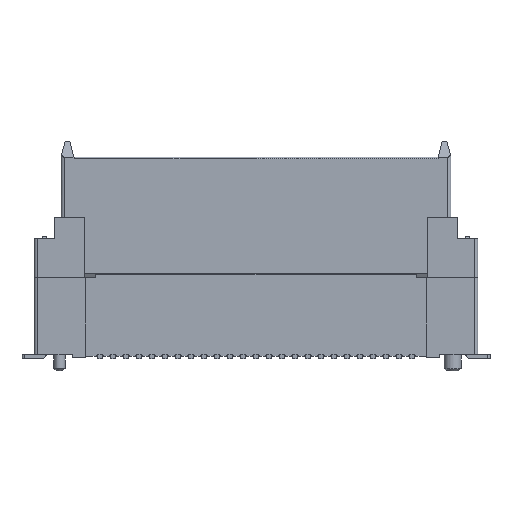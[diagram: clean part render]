
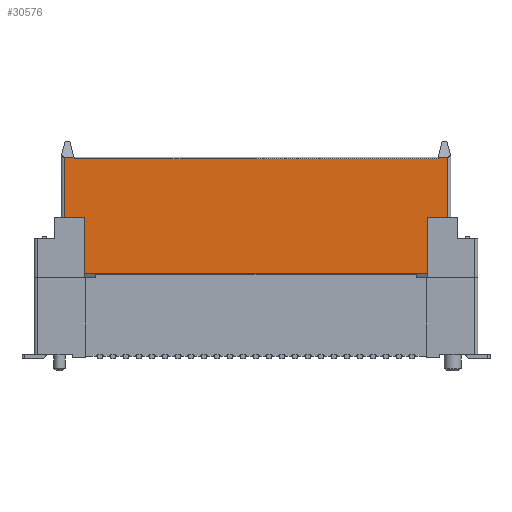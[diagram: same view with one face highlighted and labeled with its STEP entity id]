
A CAD part, front view. The second image highlights one B-rep face of the part: STEP entity #30576.
In plain terms, the highlighted planar face has unit normal (0, -1, 0).
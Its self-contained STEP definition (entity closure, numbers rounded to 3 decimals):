
#27844=CARTESIAN_POINT('Vertex',(-10.55,-2.175,8.65)) ;
#27874=CARTESIAN_POINT('Vertex',(-10.55,-2.175,5.2)) ;
#27877=CARTESIAN_POINT('Line Origine',(-10.55,-2.175,6.925)) ;
#27897=CARTESIAN_POINT('Vertex',(10.55,-2.175,8.65)) ;
#27900=CARTESIAN_POINT('Line Origine',(10.55,-2.175,6.925)) ;
#27904=CARTESIAN_POINT('Vertex',(10.55,-2.175,5.2)) ;
#29609=CARTESIAN_POINT('Vertex',(11.2,-2.175,12.25)) ;
#29625=CARTESIAN_POINT('Vertex',(-11.2,-2.175,12.25)) ;
#29628=CARTESIAN_POINT('Line Origine',(-1.032,-2.175,12.25)) ;
#29665=CARTESIAN_POINT('Vertex',(11.8,-2.175,8.65)) ;
#29668=CARTESIAN_POINT('Line Origine',(11.5,-2.175,8.65)) ;
#29672=CARTESIAN_POINT('Vertex',(11.2,-2.175,8.65)) ;
#29675=CARTESIAN_POINT('Line Origine',(10.875,-2.175,8.65)) ;
#29739=CARTESIAN_POINT('Line Origine',(-10.875,-2.175,8.65)) ;
#29743=CARTESIAN_POINT('Vertex',(-11.2,-2.175,8.65)) ;
#29746=CARTESIAN_POINT('Line Origine',(-11.5,-2.175,8.65)) ;
#29750=CARTESIAN_POINT('Vertex',(-11.8,-2.175,8.65)) ;
#30099=CARTESIAN_POINT('Line Origine',(11.2,-2.175,12.3)) ;
#30103=CARTESIAN_POINT('Vertex',(11.2,-2.175,12.35)) ;
#30121=CARTESIAN_POINT('Vertex',(-11.2,-2.175,12.35)) ;
#30124=CARTESIAN_POINT('Line Origine',(-11.2,-2.175,12.3)) ;
#30181=CARTESIAN_POINT('Line Origine',(-11.8,-2.175,9.275)) ;
#30185=CARTESIAN_POINT('Vertex',(-11.8,-2.175,12.35)) ;
#30225=CARTESIAN_POINT('Line Origine',(0.,-2.175,12.35)) ;
#30513=CARTESIAN_POINT('Line Origine',(11.8,-2.175,9.275)) ;
#30517=CARTESIAN_POINT('Vertex',(11.8,-2.175,12.35)) ;
#30545=CARTESIAN_POINT('Axis2P3D Location',(0.,-2.175,8.65)) ;
#30550=CARTESIAN_POINT('Line Origine',(11.5,-2.175,12.35)) ;
#30555=CARTESIAN_POINT('Line Origine',(0.,-2.175,5.2)) ;
#27878=DIRECTION('Vector Direction',(0.,0.,-1.)) ;
#27901=DIRECTION('Vector Direction',(0.,0.,-1.)) ;
#29629=DIRECTION('Vector Direction',(1.,0.,0.)) ;
#29669=DIRECTION('Vector Direction',(1.,0.,0.)) ;
#29676=DIRECTION('Vector Direction',(1.,0.,0.)) ;
#29740=DIRECTION('Vector Direction',(1.,0.,0.)) ;
#29747=DIRECTION('Vector Direction',(-1.,0.,0.)) ;
#30100=DIRECTION('Vector Direction',(0.,0.,1.)) ;
#30125=DIRECTION('Vector Direction',(0.,0.,1.)) ;
#30182=DIRECTION('Vector Direction',(0.,0.,1.)) ;
#30226=DIRECTION('Vector Direction',(-1.,0.,0.)) ;
#30514=DIRECTION('Vector Direction',(0.,0.,1.)) ;
#30546=DIRECTION('Axis2P3D Direction',(0.,1.,0.)) ;
#30547=DIRECTION('Axis2P3D XDirection',(0.,0.,1.)) ;
#30551=DIRECTION('Vector Direction',(-1.,0.,0.)) ;
#30556=DIRECTION('Vector Direction',(-1.,0.,0.)) ;
#30548=AXIS2_PLACEMENT_3D('Plane Axis2P3D',#30545,#30546,#30547) ;
#30561=ORIENTED_EDGE('',*,*,#30554,.F.) ;
#30562=ORIENTED_EDGE('',*,*,#30105,.F.) ;
#30563=ORIENTED_EDGE('',*,*,#29632,.F.) ;
#30564=ORIENTED_EDGE('',*,*,#30128,.F.) ;
#30565=ORIENTED_EDGE('',*,*,#30229,.F.) ;
#30566=ORIENTED_EDGE('',*,*,#30187,.F.) ;
#30567=ORIENTED_EDGE('',*,*,#29752,.T.) ;
#30568=ORIENTED_EDGE('',*,*,#29745,.T.) ;
#30569=ORIENTED_EDGE('',*,*,#27881,.T.) ;
#30570=ORIENTED_EDGE('',*,*,#30559,.F.) ;
#30571=ORIENTED_EDGE('',*,*,#27906,.F.) ;
#30572=ORIENTED_EDGE('',*,*,#29679,.T.) ;
#30573=ORIENTED_EDGE('',*,*,#29674,.T.) ;
#30574=ORIENTED_EDGE('',*,*,#30519,.T.) ;
#27879=VECTOR('Line Direction',#27878,1.) ;
#27902=VECTOR('Line Direction',#27901,1.) ;
#29630=VECTOR('Line Direction',#29629,1.) ;
#29670=VECTOR('Line Direction',#29669,1.) ;
#29677=VECTOR('Line Direction',#29676,1.) ;
#29741=VECTOR('Line Direction',#29740,1.) ;
#29748=VECTOR('Line Direction',#29747,1.) ;
#30101=VECTOR('Line Direction',#30100,1.) ;
#30126=VECTOR('Line Direction',#30125,1.) ;
#30183=VECTOR('Line Direction',#30182,1.) ;
#30227=VECTOR('Line Direction',#30226,1.) ;
#30515=VECTOR('Line Direction',#30514,1.) ;
#30552=VECTOR('Line Direction',#30551,1.) ;
#30557=VECTOR('Line Direction',#30556,1.) ;
#30576=ADVANCED_FACE('\X2\585180F6\X0\2',(#30575),#30549,.F.) ;
#27881=EDGE_CURVE('',#27845,#27875,#27880,.T.) ;
#27906=EDGE_CURVE('',#27898,#27905,#27903,.T.) ;
#29632=EDGE_CURVE('',#29626,#29610,#29631,.T.) ;
#29674=EDGE_CURVE('',#29673,#29666,#29671,.T.) ;
#29679=EDGE_CURVE('',#27898,#29673,#29678,.T.) ;
#29745=EDGE_CURVE('',#29744,#27845,#29742,.T.) ;
#29752=EDGE_CURVE('',#29751,#29744,#29749,.F.) ;
#30105=EDGE_CURVE('',#29610,#30104,#30102,.T.) ;
#30128=EDGE_CURVE('',#30122,#29626,#30127,.F.) ;
#30187=EDGE_CURVE('',#29751,#30186,#30184,.T.) ;
#30229=EDGE_CURVE('',#30186,#30122,#30228,.F.) ;
#30519=EDGE_CURVE('',#29666,#30518,#30516,.T.) ;
#30554=EDGE_CURVE('',#30104,#30518,#30553,.F.) ;
#30559=EDGE_CURVE('',#27905,#27875,#30558,.T.) ;
#30560=EDGE_LOOP('',(#30561,#30562,#30563,#30564,#30565,#30566,#30567,#30568,#30569,#30570,#30571,#30572,#30573,#30574)) ;
#30575=FACE_OUTER_BOUND('',#30560,.T.) ;
#27880=LINE('Line',#27877,#27879) ;
#27903=LINE('Line',#27900,#27902) ;
#29631=LINE('Line',#29628,#29630) ;
#29671=LINE('Line',#29668,#29670) ;
#29678=LINE('Line',#29675,#29677) ;
#29742=LINE('Line',#29739,#29741) ;
#29749=LINE('Line',#29746,#29748) ;
#30102=LINE('Line',#30099,#30101) ;
#30127=LINE('Line',#30124,#30126) ;
#30184=LINE('Line',#30181,#30183) ;
#30228=LINE('Line',#30225,#30227) ;
#30516=LINE('Line',#30513,#30515) ;
#30553=LINE('Line',#30550,#30552) ;
#30558=LINE('Line',#30555,#30557) ;
#30549=PLANE('Plane',#30548) ;
#27845=VERTEX_POINT('',#27844) ;
#27875=VERTEX_POINT('',#27874) ;
#27898=VERTEX_POINT('',#27897) ;
#27905=VERTEX_POINT('',#27904) ;
#29610=VERTEX_POINT('',#29609) ;
#29626=VERTEX_POINT('',#29625) ;
#29666=VERTEX_POINT('',#29665) ;
#29673=VERTEX_POINT('',#29672) ;
#29744=VERTEX_POINT('',#29743) ;
#29751=VERTEX_POINT('',#29750) ;
#30104=VERTEX_POINT('',#30103) ;
#30122=VERTEX_POINT('',#30121) ;
#30186=VERTEX_POINT('',#30185) ;
#30518=VERTEX_POINT('',#30517) ;
